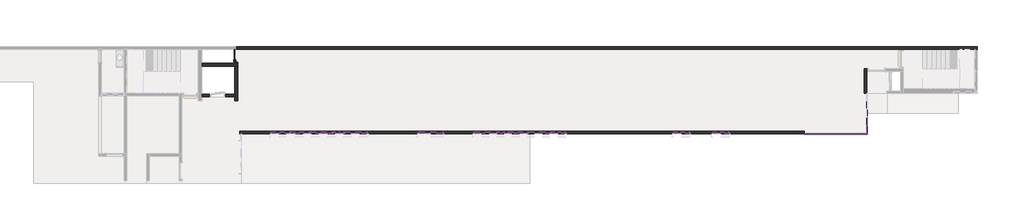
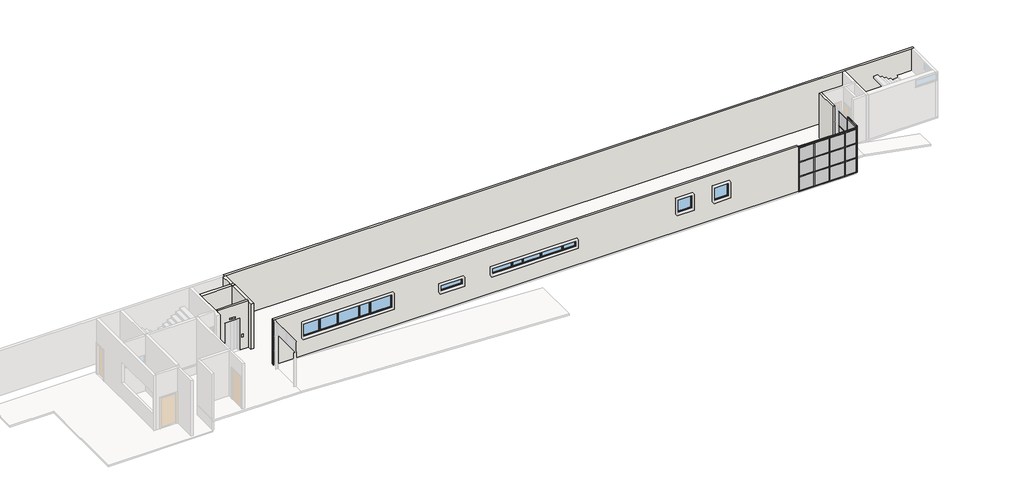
# One storey, part 2 of 3: 56 members, 23 plates, 13 windows, 7 walls, 1 door.
"""IFC4 building model written with IfcOpenShell, lengths in millimetres."""

from ifc_helpers import new_model, si_unit, frame, origin, place, context, project, spatial, polyline, outline, extrude, faceted_brep, transform, mapped, element, save
from components import door_80x210cm_6cad2534, rectangular_mullion_4x4_cm_offset_2cm_2258c4c8, rectangular_mullion_4x4_cm_offset_2cm_3eb18034, rectangular_mullion_4x4_cm_offset_2cm_f367b127, rectangular_mullion_4x4_cm_offset_2cm_0519d578, rectangular_mullion_4x4_cm_offset_2cm_ddc5f716, rectangular_mullion_4x4_cm_offset_2cm_dcd03643, rectangular_mullion_4x4_cm_offset_2cm_859eeaea, rectangular_mullion_4x4_cm_offset_2cm_f24be0eb, rectangular_mullion_4x4_cm_offset_2cm_c7dd14bb, rectangular_mullion_4x4_cm_offset_2cm_62779054, rectangular_mullion_4x4_cm_offset_2cm_9d20afd9, rectangular_mullion_4x4_cm_offset_2cm_7fa27b69, rectangular_mullion_4x4_cm_offset_2cm_a15747af, rectangular_mullion_4x4_cm_offset_2cm_83326fac, rectangular_mullion_4x4_cm_offset_2cm_a72ce177, rectangular_mullion_4x4_cm_offset_2cm_a55c69bb, system_panel_vidro_2cm_7b007d6b, system_panel_vidro_2cm_b9699863, system_panel_vidro_2cm_5412c861, system_panel_vidro_2cm_a1342aed, system_panel_vidro_2cm_e9956cb0, system_panel_vidro_2cm_1f93eb52, aluminum_exterior_window_2_wide_3886_0_70_x_0_50m_620618a0, aluminum_exterior_window_2_wide_3886_0_70_x_1_00m_ebdd4f97, aluminum_exterior_window_2_wide_3886_0_85_x_0_50m_92bb0107, aluminum_exterior_window_2_wide_3886_1_00_x_1_00m_4173611b, aluminum_exterior_window_2_wide_3886_1_15_x_1_00m_830be03d, aluminum_exterior_window_2_wide_3886_1_20_x_0_50m_2c522d7e, aluminum_exterior_window_2_wide_3886_1_20_x_1_00m_ff6d45cf, aluminum_exterior_window_2_wide_3886_1_40_x_0_50m_8d64cb47, aluminum_exterior_window_2_wide_3886_1_40_x_1_00m_dec34682, aluminum_exterior_window_2_wide_3886_1_50_x_0_50m_718bd5c1

model = new_model("IFC4")

# Units and contexts
model_context = context("Model", 3, world=origin())
ifc_project = project(units=[si_unit("LENGTHUNIT", "METRE", prefix="MILLI")], contexts=[model_context])

# Site, building, storey
site = spatial("IfcSite", under=ifc_project)
building = spatial("IfcBuilding", under=site)
storey = spatial("IfcBuildingStorey", under=building, Name="PLANTA BAIXA TÉRREO", Elevation=800.0)

# Door
placement = place(None, origin())
door_80x210cm_shape = door_80x210cm_6cad2534(model_context)
element("IfcDoor", 1, ObjectType="FamiliaBIM Porta de abrir Veneziana Metalica MCMV 2023 : 80x210cm", at=placement, inside=storey, context=model_context, shape_type="MappedRepresentation", body=[
    mapped(door_80x210cm_shape, transform((-2254.6326345, -3209.9622627, 750.0), x_axis=(0.0, 1.0, 0.0), y_axis=(-1.0, 0.0, 0.0), z_axis=(0.0, 0.0, 1.0))),
])

# Members
rectangular_mullion_4x4_cm_offset_2cm_shape = rectangular_mullion_4x4_cm_offset_2cm_2258c4c8(model_context)
element("IfcMember", 2, ObjectType="Rectangular Mullion : 4x4 cm - offset 2cm", at=placement, inside=storey, context=model_context, shape_type="MappedRepresentation", body=[
    mapped(rectangular_mullion_4x4_cm_offset_2cm_shape, transform((32235.3673655, -8041.1116245, 800.0), x_axis=(0.0, 0.0, -1.0), y_axis=(0.0, -1.0, 0.0), z_axis=(-1.0, 0.0, 0.0))),
])
element("IfcMember", 3, ObjectType="Rectangular Mullion : 4x4 cm - offset 2cm", at=placement, inside=storey, context=model_context, shape_type="MappedRepresentation", body=[
    mapped(rectangular_mullion_4x4_cm_offset_2cm_shape, transform((36035.3673655, -7041.1116242, 4000.0), x_axis=(0.0, 0.0, 1.0), y_axis=(1.0, 0.0, 0.0), z_axis=(0.0, 1.0, 0.0))),
])
element("IfcMember", 4, ObjectType="Rectangular Mullion : 4x4 cm - offset 2cm", at=placement, inside=storey, context=model_context, shape_type="MappedRepresentation", body=[
    mapped(rectangular_mullion_4x4_cm_offset_2cm_shape, transform((33235.3673658, -8041.1116245, 3900.0), x_axis=(0.0, 0.0, 1.0), y_axis=(0.0, -1.0, 0.0), z_axis=(1.0, 0.0, 0.0))),
])
rectangular_mullion_4x4_cm_offset_2cm_2_shape = rectangular_mullion_4x4_cm_offset_2cm_3eb18034(model_context)
element("IfcMember", 5, ObjectType="Rectangular Mullion : 4x4 cm - offset 2cm", at=placement, inside=storey, context=model_context, shape_type="MappedRepresentation", body=[
    mapped(rectangular_mullion_4x4_cm_offset_2cm_2_shape, transform((36035.3673655, -7041.1116242, 1800.0), x_axis=(0.0, 0.0, 1.0), y_axis=(1.0, 0.0, 0.0), z_axis=(0.0, 1.0, 0.0))),
])
element("IfcMember", 6, ObjectType="Rectangular Mullion : 4x4 cm - offset 2cm", at=placement, inside=storey, context=model_context, shape_type="MappedRepresentation", body=[
    mapped(rectangular_mullion_4x4_cm_offset_2cm_2_shape, transform((36035.3673655, -7041.1116242, 2800.0), x_axis=(0.0, 0.0, 1.0), y_axis=(1.0, 0.0, 0.0), z_axis=(0.0, 1.0, 0.0))),
])
element("IfcMember", 7, ObjectType="Rectangular Mullion : 4x4 cm - offset 2cm", at=placement, inside=storey, context=model_context, shape_type="MappedRepresentation", body=[
    mapped(rectangular_mullion_4x4_cm_offset_2cm_2_shape, transform((36035.3673655, -7041.1116242, 3800.0), x_axis=(0.0, 0.0, 1.0), y_axis=(1.0, 0.0, 0.0), z_axis=(0.0, 1.0, 0.0))),
])
element("IfcMember", 8, ObjectType="Rectangular Mullion : 4x4 cm - offset 2cm", at=placement, inside=storey, context=model_context, shape_type="MappedRepresentation", body=[
    mapped(rectangular_mullion_4x4_cm_offset_2cm_2_shape, transform((33235.3673658, -8041.1116245, 1800.0), x_axis=(0.0, 0.0, 1.0), y_axis=(0.0, -1.0, 0.0), z_axis=(1.0, 0.0, 0.0))),
])
element("IfcMember", 9, ObjectType="Rectangular Mullion : 4x4 cm - offset 2cm", at=placement, inside=storey, context=model_context, shape_type="MappedRepresentation", body=[
    mapped(rectangular_mullion_4x4_cm_offset_2cm_2_shape, transform((33235.3673658, -8041.1116245, 2800.0), x_axis=(0.0, 0.0, 1.0), y_axis=(0.0, -1.0, 0.0), z_axis=(1.0, 0.0, 0.0))),
])
element("IfcMember", 10, ObjectType="Rectangular Mullion : 4x4 cm - offset 2cm", at=placement, inside=storey, context=model_context, shape_type="MappedRepresentation", body=[
    mapped(rectangular_mullion_4x4_cm_offset_2cm_2_shape, transform((33235.3673658, -8041.1116245, 3800.0), x_axis=(0.0, 0.0, 1.0), y_axis=(0.0, -1.0, 0.0), z_axis=(1.0, 0.0, 0.0))),
])
rectangular_mullion_4x4_cm_offset_2cm_3_shape = rectangular_mullion_4x4_cm_offset_2cm_f367b127(model_context)
element("IfcMember", 11, ObjectType="Rectangular Mullion : 4x4 cm - offset 2cm", at=placement, inside=storey, context=model_context, shape_type="MappedRepresentation", body=[
    mapped(rectangular_mullion_4x4_cm_offset_2cm_3_shape, transform((36035.3673655, -7041.1116242, 840.0), x_axis=(0.0, 1.0, 0.0), y_axis=(1.0, 0.0, 0.0), z_axis=(0.0, 0.0, -1.0))),
])
element("IfcMember", 12, ObjectType="Rectangular Mullion : 4x4 cm - offset 2cm", at=placement, inside=storey, context=model_context, shape_type="MappedRepresentation", body=[
    mapped(rectangular_mullion_4x4_cm_offset_2cm_3_shape, transform((36035.3673655, -7041.1116242, 1840.0), x_axis=(0.0, 1.0, 0.0), y_axis=(1.0, 0.0, 0.0), z_axis=(0.0, 0.0, -1.0))),
])
element("IfcMember", 13, ObjectType="Rectangular Mullion : 4x4 cm - offset 2cm", at=placement, inside=storey, context=model_context, shape_type="MappedRepresentation", body=[
    mapped(rectangular_mullion_4x4_cm_offset_2cm_3_shape, transform((36035.3673655, -7041.1116242, 2840.0), x_axis=(0.0, 1.0, 0.0), y_axis=(1.0, 0.0, 0.0), z_axis=(0.0, 0.0, -1.0))),
])
element("IfcMember", 14, ObjectType="Rectangular Mullion : 4x4 cm - offset 2cm", at=placement, inside=storey, context=model_context, shape_type="MappedRepresentation", body=[
    mapped(rectangular_mullion_4x4_cm_offset_2cm_3_shape, transform((33235.3673658, -8041.1116245, 840.0), x_axis=(1.0, 0.0, 0.0), y_axis=(0.0, -1.0, 0.0), z_axis=(0.0, 0.0, -1.0))),
])
element("IfcMember", 15, ObjectType="Rectangular Mullion : 4x4 cm - offset 2cm", at=placement, inside=storey, context=model_context, shape_type="MappedRepresentation", body=[
    mapped(rectangular_mullion_4x4_cm_offset_2cm_3_shape, transform((34235.3673658, -8041.1116245, 840.0), x_axis=(1.0, 0.0, 0.0), y_axis=(0.0, -1.0, 0.0), z_axis=(0.0, 0.0, -1.0))),
])
element("IfcMember", 16, ObjectType="Rectangular Mullion : 4x4 cm - offset 2cm", at=placement, inside=storey, context=model_context, shape_type="MappedRepresentation", body=[
    mapped(rectangular_mullion_4x4_cm_offset_2cm_3_shape, transform((35235.3673658, -8041.1116245, 840.0), x_axis=(1.0, 0.0, 0.0), y_axis=(0.0, -1.0, 0.0), z_axis=(0.0, 0.0, -1.0))),
])
element("IfcMember", 17, ObjectType="Rectangular Mullion : 4x4 cm - offset 2cm", at=placement, inside=storey, context=model_context, shape_type="MappedRepresentation", body=[
    mapped(rectangular_mullion_4x4_cm_offset_2cm_3_shape, transform((33235.3673658, -8041.1116245, 1840.0), x_axis=(1.0, 0.0, 0.0), y_axis=(0.0, -1.0, 0.0), z_axis=(0.0, 0.0, -1.0))),
])
element("IfcMember", 18, ObjectType="Rectangular Mullion : 4x4 cm - offset 2cm", at=placement, inside=storey, context=model_context, shape_type="MappedRepresentation", body=[
    mapped(rectangular_mullion_4x4_cm_offset_2cm_3_shape, transform((34235.3673658, -8041.1116245, 1840.0), x_axis=(1.0, 0.0, 0.0), y_axis=(0.0, -1.0, 0.0), z_axis=(0.0, 0.0, -1.0))),
])
element("IfcMember", 19, ObjectType="Rectangular Mullion : 4x4 cm - offset 2cm", at=placement, inside=storey, context=model_context, shape_type="MappedRepresentation", body=[
    mapped(rectangular_mullion_4x4_cm_offset_2cm_3_shape, transform((35235.3673658, -8041.1116245, 1840.0), x_axis=(1.0, 0.0, 0.0), y_axis=(0.0, -1.0, 0.0), z_axis=(0.0, 0.0, -1.0))),
])
element("IfcMember", 20, ObjectType="Rectangular Mullion : 4x4 cm - offset 2cm", at=placement, inside=storey, context=model_context, shape_type="MappedRepresentation", body=[
    mapped(rectangular_mullion_4x4_cm_offset_2cm_3_shape, transform((33235.3673658, -8041.1116245, 2840.0), x_axis=(1.0, 0.0, 0.0), y_axis=(0.0, -1.0, 0.0), z_axis=(0.0, 0.0, -1.0))),
])
element("IfcMember", 21, ObjectType="Rectangular Mullion : 4x4 cm - offset 2cm", at=placement, inside=storey, context=model_context, shape_type="MappedRepresentation", body=[
    mapped(rectangular_mullion_4x4_cm_offset_2cm_3_shape, transform((34235.3673658, -8041.1116245, 2840.0), x_axis=(1.0, 0.0, 0.0), y_axis=(0.0, -1.0, 0.0), z_axis=(0.0, 0.0, -1.0))),
])
element("IfcMember", 22, ObjectType="Rectangular Mullion : 4x4 cm - offset 2cm", at=placement, inside=storey, context=model_context, shape_type="MappedRepresentation", body=[
    mapped(rectangular_mullion_4x4_cm_offset_2cm_3_shape, transform((35235.3673658, -8041.1116245, 2840.0), x_axis=(1.0, 0.0, 0.0), y_axis=(0.0, -1.0, 0.0), z_axis=(0.0, 0.0, -1.0))),
])
rectangular_mullion_4x4_cm_offset_2cm_4_shape = rectangular_mullion_4x4_cm_offset_2cm_0519d578(model_context)
element("IfcMember", 23, ObjectType="Rectangular Mullion : 4x4 cm - offset 2cm", at=placement, inside=storey, context=model_context, shape_type="MappedRepresentation", body=[
    mapped(rectangular_mullion_4x4_cm_offset_2cm_4_shape, transform((36035.3673655, -8041.1116245, 840.0), x_axis=(1.0, 0.0, 0.0), y_axis=(0.0, -1.0, 0.0), z_axis=(0.0, 0.0, -1.0))),
])
element("IfcMember", 24, ObjectType="Rectangular Mullion : 4x4 cm - offset 2cm", at=placement, inside=storey, context=model_context, shape_type="MappedRepresentation", body=[
    mapped(rectangular_mullion_4x4_cm_offset_2cm_4_shape, transform((36035.3673655, -8041.1116245, 1800.0), x_axis=(0.0, -1.0, 0.0), y_axis=(1.0, 0.0, 0.0), z_axis=(0.0, 0.0, 1.0))),
])
element("IfcMember", 25, ObjectType="Rectangular Mullion : 4x4 cm - offset 2cm", at=placement, inside=storey, context=model_context, shape_type="MappedRepresentation", body=[
    mapped(rectangular_mullion_4x4_cm_offset_2cm_4_shape, transform((32235.3673655, -8041.1116245, 1800.0), x_axis=(-1.0, 0.0, 0.0), y_axis=(0.0, -1.0, 0.0), z_axis=(0.0, 0.0, 1.0))),
])
rectangular_mullion_4x4_cm_offset_2cm_5_shape = rectangular_mullion_4x4_cm_offset_2cm_ddc5f716(model_context)
element("IfcMember", 26, ObjectType="Rectangular Mullion : 4x4 cm - offset 2cm", at=placement, inside=storey, context=model_context, shape_type="MappedRepresentation", body=[
    mapped(rectangular_mullion_4x4_cm_offset_2cm_5_shape, transform((36035.3673655, -7041.1116242, 800.0), x_axis=(0.0, 0.0, -1.0), y_axis=(1.0, 0.0, 0.0), z_axis=(0.0, -1.0, 0.0))),
])
element("IfcMember", 27, ObjectType="Rectangular Mullion : 4x4 cm - offset 2cm", at=placement, inside=storey, context=model_context, shape_type="MappedRepresentation", body=[
    mapped(rectangular_mullion_4x4_cm_offset_2cm_5_shape, transform((33235.3673658, -8041.1116245, 800.0), x_axis=(0.0, 0.0, -1.0), y_axis=(0.0, -1.0, 0.0), z_axis=(-1.0, 0.0, 0.0))),
])
element("IfcMember", 28, ObjectType="Rectangular Mullion : 4x4 cm - offset 2cm", at=placement, inside=storey, context=model_context, shape_type="MappedRepresentation", body=[
    mapped(rectangular_mullion_4x4_cm_offset_2cm_5_shape, transform((34235.3673658, -8041.1116245, 800.0), x_axis=(0.0, 0.0, -1.0), y_axis=(0.0, -1.0, 0.0), z_axis=(-1.0, 0.0, 0.0))),
])
rectangular_mullion_4x4_cm_offset_2cm_6_shape = rectangular_mullion_4x4_cm_offset_2cm_dcd03643(model_context)
element("IfcMember", 29, ObjectType="Rectangular Mullion : 4x4 cm - offset 2cm", at=placement, inside=storey, context=model_context, shape_type="MappedRepresentation", body=[
    mapped(rectangular_mullion_4x4_cm_offset_2cm_6_shape, transform((36035.3673655, -6041.1116242, 1800.0), x_axis=(0.0, 0.0, 1.0), y_axis=(1.0, 0.0, 0.0), z_axis=(0.0, 1.0, 0.0))),
])
element("IfcMember", 30, ObjectType="Rectangular Mullion : 4x4 cm - offset 2cm", at=placement, inside=storey, context=model_context, shape_type="MappedRepresentation", body=[
    mapped(rectangular_mullion_4x4_cm_offset_2cm_6_shape, transform((34235.3673658, -8041.1116245, 1800.0), x_axis=(0.0, 0.0, 1.0), y_axis=(0.0, -1.0, 0.0), z_axis=(1.0, 0.0, 0.0))),
])
element("IfcMember", 31, ObjectType="Rectangular Mullion : 4x4 cm - offset 2cm", at=placement, inside=storey, context=model_context, shape_type="MappedRepresentation", body=[
    mapped(rectangular_mullion_4x4_cm_offset_2cm_6_shape, transform((35235.3673658, -8041.1116245, 1800.0), x_axis=(0.0, 0.0, 1.0), y_axis=(0.0, -1.0, 0.0), z_axis=(1.0, 0.0, 0.0))),
])
element("IfcMember", 32, ObjectType="Rectangular Mullion : 4x4 cm - offset 2cm", at=placement, inside=storey, context=model_context, shape_type="MappedRepresentation", body=[
    mapped(rectangular_mullion_4x4_cm_offset_2cm_6_shape, transform((34235.3673658, -8041.1116245, 2800.0), x_axis=(0.0, 0.0, 1.0), y_axis=(0.0, -1.0, 0.0), z_axis=(1.0, 0.0, 0.0))),
])
element("IfcMember", 33, ObjectType="Rectangular Mullion : 4x4 cm - offset 2cm", at=placement, inside=storey, context=model_context, shape_type="MappedRepresentation", body=[
    mapped(rectangular_mullion_4x4_cm_offset_2cm_6_shape, transform((35235.3673658, -8041.1116245, 2800.0), x_axis=(0.0, 0.0, 1.0), y_axis=(0.0, -1.0, 0.0), z_axis=(1.0, 0.0, 0.0))),
])
element("IfcMember", 34, ObjectType="Rectangular Mullion : 4x4 cm - offset 2cm", at=placement, inside=storey, context=model_context, shape_type="MappedRepresentation", body=[
    mapped(rectangular_mullion_4x4_cm_offset_2cm_6_shape, transform((34235.3673658, -8041.1116245, 3800.0), x_axis=(0.0, 0.0, 1.0), y_axis=(0.0, -1.0, 0.0), z_axis=(1.0, 0.0, 0.0))),
])
element("IfcMember", 35, ObjectType="Rectangular Mullion : 4x4 cm - offset 2cm", at=placement, inside=storey, context=model_context, shape_type="MappedRepresentation", body=[
    mapped(rectangular_mullion_4x4_cm_offset_2cm_6_shape, transform((35235.3673658, -8041.1116245, 3800.0), x_axis=(0.0, 0.0, 1.0), y_axis=(0.0, -1.0, 0.0), z_axis=(1.0, 0.0, 0.0))),
])
element("IfcMember", 36, ObjectType="Rectangular Mullion : 4x4 cm - offset 2cm", at=placement, inside=storey, context=model_context, shape_type="MappedRepresentation", body=[
    mapped(rectangular_mullion_4x4_cm_offset_2cm_5_shape, transform((34235.3673658, -8041.1116245, 3900.0), x_axis=(0.0, 0.0, 1.0), y_axis=(0.0, -1.0, 0.0), z_axis=(1.0, 0.0, 0.0))),
])
rectangular_mullion_4x4_cm_offset_2cm_7_shape = rectangular_mullion_4x4_cm_offset_2cm_859eeaea(model_context)
element("IfcMember", 37, ObjectType="Rectangular Mullion : 4x4 cm - offset 2cm", at=placement, inside=storey, context=model_context, shape_type="MappedRepresentation", body=[
    mapped(rectangular_mullion_4x4_cm_offset_2cm_7_shape, transform((36035.3673655, -7041.1116242, 3840.0), x_axis=(0.0, 1.0, 0.0), y_axis=(1.0, 0.0, 0.0), z_axis=(0.0, 0.0, -1.0))),
])
rectangular_mullion_4x4_cm_offset_2cm_8_shape = rectangular_mullion_4x4_cm_offset_2cm_f24be0eb(model_context)
element("IfcMember", 38, ObjectType="Rectangular Mullion : 4x4 cm - offset 2cm", at=placement, inside=storey, context=model_context, shape_type="MappedRepresentation", body=[
    mapped(rectangular_mullion_4x4_cm_offset_2cm_8_shape, transform((36035.3673655, -8041.1116245, 3960.0), x_axis=(0.0, -1.0, 0.0), y_axis=(1.0, 0.0, 0.0), z_axis=(0.0, 0.0, 1.0))),
])
element("IfcMember", 39, ObjectType="Rectangular Mullion : 4x4 cm - offset 2cm", at=placement, inside=storey, context=model_context, shape_type="MappedRepresentation", body=[
    mapped(rectangular_mullion_4x4_cm_offset_2cm_5_shape, transform((36035.3673655, -8041.1116245, 1800.0), x_axis=(1.0, 0.0, 0.0), y_axis=(0.0, -1.0, 0.0), z_axis=(0.0, 0.0, -1.0))),
])
element("IfcMember", 40, ObjectType="Rectangular Mullion : 4x4 cm - offset 2cm", at=placement, inside=storey, context=model_context, shape_type="MappedRepresentation", body=[
    mapped(rectangular_mullion_4x4_cm_offset_2cm_5_shape, transform((36035.3673655, -8041.1116245, 2800.0), x_axis=(1.0, 0.0, 0.0), y_axis=(0.0, -1.0, 0.0), z_axis=(0.0, 0.0, -1.0))),
])
element("IfcMember", 41, ObjectType="Rectangular Mullion : 4x4 cm - offset 2cm", at=placement, inside=storey, context=model_context, shape_type="MappedRepresentation", body=[
    mapped(rectangular_mullion_4x4_cm_offset_2cm_5_shape, transform((36035.3673655, -8041.1116245, 2800.0), x_axis=(0.0, -1.0, 0.0), y_axis=(1.0, 0.0, 0.0), z_axis=(0.0, 0.0, 1.0))),
])
element("IfcMember", 42, ObjectType="Rectangular Mullion : 4x4 cm - offset 2cm", at=placement, inside=storey, context=model_context, shape_type="MappedRepresentation", body=[
    mapped(rectangular_mullion_4x4_cm_offset_2cm_5_shape, transform((36035.3673655, -8041.1116245, 3800.0), x_axis=(0.0, -1.0, 0.0), y_axis=(1.0, 0.0, 0.0), z_axis=(0.0, 0.0, 1.0))),
])
element("IfcMember", 43, ObjectType="Rectangular Mullion : 4x4 cm - offset 2cm", at=placement, inside=storey, context=model_context, shape_type="MappedRepresentation", body=[
    mapped(rectangular_mullion_4x4_cm_offset_2cm_5_shape, transform((32235.3673655, -8041.1116245, 2800.0), x_axis=(-1.0, 0.0, 0.0), y_axis=(0.0, -1.0, 0.0), z_axis=(0.0, 0.0, 1.0))),
])
element("IfcMember", 44, ObjectType="Rectangular Mullion : 4x4 cm - offset 2cm", at=placement, inside=storey, context=model_context, shape_type="MappedRepresentation", body=[
    mapped(rectangular_mullion_4x4_cm_offset_2cm_5_shape, transform((32235.3673655, -8041.1116245, 3800.0), x_axis=(-1.0, 0.0, 0.0), y_axis=(0.0, -1.0, 0.0), z_axis=(0.0, 0.0, 1.0))),
])
rectangular_mullion_4x4_cm_offset_2cm_9_shape = rectangular_mullion_4x4_cm_offset_2cm_c7dd14bb(model_context)
element("IfcMember", 45, ObjectType="Rectangular Mullion : 4x4 cm - offset 2cm", at=placement, inside=storey, context=model_context, shape_type="MappedRepresentation", body=[
    mapped(rectangular_mullion_4x4_cm_offset_2cm_9_shape, transform((34595.3673655, -8041.1116245, 3900.0), x_axis=(0.0, 0.0, 1.0), y_axis=(0.0, -1.0, 0.0), z_axis=(1.0, 0.0, 0.0))),
])
rectangular_mullion_4x4_cm_offset_2cm_10_shape = rectangular_mullion_4x4_cm_offset_2cm_62779054(model_context)
element("IfcMember", 46, ObjectType="Rectangular Mullion : 4x4 cm - offset 2cm", at=placement, inside=storey, context=model_context, shape_type="MappedRepresentation", body=[
    mapped(rectangular_mullion_4x4_cm_offset_2cm_10_shape, transform((35235.3673658, -8041.1116245, 3900.0), x_axis=(0.0, 0.0, 1.0), y_axis=(0.0, -1.0, 0.0), z_axis=(1.0, 0.0, 0.0))),
])
rectangular_mullion_4x4_cm_offset_2cm_11_shape = rectangular_mullion_4x4_cm_offset_2cm_9d20afd9(model_context)
element("IfcMember", 47, ObjectType="Rectangular Mullion : 4x4 cm - offset 2cm", at=placement, inside=storey, context=model_context, shape_type="MappedRepresentation", body=[
    mapped(rectangular_mullion_4x4_cm_offset_2cm_11_shape, transform((33235.3673658, -8041.1116245, 3840.0), x_axis=(1.0, 0.0, 0.0), y_axis=(0.0, -1.0, 0.0), z_axis=(0.0, 0.0, -1.0))),
])
element("IfcMember", 48, ObjectType="Rectangular Mullion : 4x4 cm - offset 2cm", at=placement, inside=storey, context=model_context, shape_type="MappedRepresentation", body=[
    mapped(rectangular_mullion_4x4_cm_offset_2cm_11_shape, transform((34235.3673658, -8041.1116245, 3840.0), x_axis=(1.0, 0.0, 0.0), y_axis=(0.0, -1.0, 0.0), z_axis=(0.0, 0.0, -1.0))),
])
element("IfcMember", 49, ObjectType="Rectangular Mullion : 4x4 cm - offset 2cm", at=placement, inside=storey, context=model_context, shape_type="MappedRepresentation", body=[
    mapped(rectangular_mullion_4x4_cm_offset_2cm_11_shape, transform((35235.3673658, -8041.1116245, 3840.0), x_axis=(1.0, 0.0, 0.0), y_axis=(0.0, -1.0, 0.0), z_axis=(0.0, 0.0, -1.0))),
])
rectangular_mullion_4x4_cm_offset_2cm_12_shape = rectangular_mullion_4x4_cm_offset_2cm_7fa27b69(model_context)
element("IfcMember", 50, ObjectType="Rectangular Mullion : 4x4 cm - offset 2cm", at=placement, inside=storey, context=model_context, shape_type="MappedRepresentation", body=[
    mapped(rectangular_mullion_4x4_cm_offset_2cm_12_shape, transform((32235.3673655, -8041.1116245, 3860.0), x_axis=(-1.0, 0.0, 0.0), y_axis=(0.0, -1.0, 0.0), z_axis=(0.0, 0.0, 1.0))),
])
element("IfcMember", 51, ObjectType="Rectangular Mullion : 4x4 cm - offset 2cm", at=placement, inside=storey, context=model_context, shape_type="MappedRepresentation", body=[
    mapped(rectangular_mullion_4x4_cm_offset_2cm_12_shape, transform((36035.3673655, -8041.1116245, 3800.0), x_axis=(1.0, 0.0, 0.0), y_axis=(0.0, -1.0, 0.0), z_axis=(0.0, 0.0, -1.0))),
])
rectangular_mullion_4x4_cm_offset_2cm_13_shape = rectangular_mullion_4x4_cm_offset_2cm_a15747af(model_context)
element("IfcMember", 52, ObjectType="Rectangular Mullion : 4x4 cm - offset 2cm", at=placement, inside=storey, context=model_context, shape_type="MappedRepresentation", body=[
    mapped(rectangular_mullion_4x4_cm_offset_2cm_13_shape, transform((36035.3673655, -8041.1116245, 3900.0), x_axis=(0.0, 0.0, 1.0), y_axis=(0.0, -1.0, 0.0), z_axis=(1.0, 0.0, 0.0))),
])
rectangular_mullion_4x4_cm_offset_2cm_14_shape = rectangular_mullion_4x4_cm_offset_2cm_83326fac(model_context)
element("IfcMember", 53, ObjectType="Rectangular Mullion : 4x4 cm - offset 2cm", at=placement, inside=storey, context=model_context, shape_type="MappedRepresentation", body=[
    mapped(rectangular_mullion_4x4_cm_offset_2cm_14_shape, transform((35995.3673655, -8041.1116245, 1800.0), x_axis=(0.0, 0.0, 1.0), y_axis=(0.0, -1.0, 0.0), z_axis=(1.0, 0.0, 0.0))),
])
element("IfcMember", 54, ObjectType="Rectangular Mullion : 4x4 cm - offset 2cm", at=placement, inside=storey, context=model_context, shape_type="MappedRepresentation", body=[
    mapped(rectangular_mullion_4x4_cm_offset_2cm_14_shape, transform((35995.3673655, -8041.1116245, 2800.0), x_axis=(0.0, 0.0, 1.0), y_axis=(0.0, -1.0, 0.0), z_axis=(1.0, 0.0, 0.0))),
])
element("IfcMember", 55, ObjectType="Rectangular Mullion : 4x4 cm - offset 2cm", at=placement, inside=storey, context=model_context, shape_type="MappedRepresentation", body=[
    mapped(rectangular_mullion_4x4_cm_offset_2cm_14_shape, transform((35995.3673655, -8041.1116245, 3800.0), x_axis=(0.0, 0.0, 1.0), y_axis=(0.0, -1.0, 0.0), z_axis=(1.0, 0.0, 0.0))),
])
rectangular_mullion_4x4_cm_offset_2cm_15_shape = rectangular_mullion_4x4_cm_offset_2cm_a72ce177(model_context)
element("IfcMember", 56, ObjectType="Rectangular Mullion : 4x4 cm - offset 2cm", at=placement, inside=storey, context=model_context, shape_type="MappedRepresentation", body=[
    mapped(rectangular_mullion_4x4_cm_offset_2cm_15_shape, transform((35235.3673658, -8041.1116245, 800.0), x_axis=(0.0, 0.0, -1.0), y_axis=(0.0, -1.0, 0.0), z_axis=(-1.0, 0.0, 0.0))),
])
rectangular_mullion_4x4_cm_offset_2cm_16_shape = rectangular_mullion_4x4_cm_offset_2cm_a55c69bb(model_context)
element("IfcMember", 57, ObjectType="Rectangular Mullion : 4x4 cm - offset 2cm", at=placement, inside=storey, context=model_context, shape_type="MappedRepresentation", body=[
    mapped(rectangular_mullion_4x4_cm_offset_2cm_16_shape, transform((36035.3673655, -8041.1116245, 800.0), x_axis=(0.0, 0.0, -1.0), y_axis=(1.0, 0.0, 0.0), z_axis=(0.0, -1.0, 0.0))),
])

# Plates
system_panel_vidro_2cm_shape = system_panel_vidro_2cm_7b007d6b(model_context)
element("IfcPlate", 58, ObjectType="System Panel : Vidro 2cm", at=placement, inside=storey, context=model_context, shape_type="MappedRepresentation", body=[
    mapped(system_panel_vidro_2cm_shape, transform((36035.3673655, -7521.1116244, 840.0), x_axis=(0.0, 1.0, 0.0), y_axis=(-1.0, 0.0, 0.0), z_axis=(0.0, 0.0, 1.0))),
])
element("IfcPlate", 59, ObjectType="System Panel : Vidro 2cm", at=placement, inside=storey, context=model_context, shape_type="MappedRepresentation", body=[
    mapped(system_panel_vidro_2cm_shape, transform((36035.3673655, -6521.1116242, 840.0), x_axis=(0.0, 1.0, 0.0), y_axis=(-1.0, 0.0, 0.0), z_axis=(0.0, 0.0, 1.0))),
])
element("IfcPlate", 60, ObjectType="System Panel : Vidro 2cm", at=placement, inside=storey, context=model_context, shape_type="MappedRepresentation", body=[
    mapped(system_panel_vidro_2cm_shape, transform((36035.3673655, -7521.1116244, 1840.0), x_axis=(0.0, 1.0, 0.0), y_axis=(-1.0, 0.0, 0.0), z_axis=(0.0, 0.0, 1.0))),
])
element("IfcPlate", 61, ObjectType="System Panel : Vidro 2cm", at=placement, inside=storey, context=model_context, shape_type="MappedRepresentation", body=[
    mapped(system_panel_vidro_2cm_shape, transform((36035.3673655, -6521.1116242, 1840.0), x_axis=(0.0, 1.0, 0.0), y_axis=(-1.0, 0.0, 0.0), z_axis=(0.0, 0.0, 1.0))),
])
element("IfcPlate", 62, ObjectType="System Panel : Vidro 2cm", at=placement, inside=storey, context=model_context, shape_type="MappedRepresentation", body=[
    mapped(system_panel_vidro_2cm_shape, transform((36035.3673655, -7521.1116244, 2840.0), x_axis=(0.0, 1.0, 0.0), y_axis=(-1.0, 0.0, 0.0), z_axis=(0.0, 0.0, 1.0))),
])
element("IfcPlate", 63, ObjectType="System Panel : Vidro 2cm", at=placement, inside=storey, context=model_context, shape_type="MappedRepresentation", body=[
    mapped(system_panel_vidro_2cm_shape, transform((36035.3673655, -6521.1116242, 2840.0), x_axis=(0.0, 1.0, 0.0), y_axis=(-1.0, 0.0, 0.0), z_axis=(0.0, 0.0, 1.0))),
])
element("IfcPlate", 64, ObjectType="System Panel : Vidro 2cm", at=placement, inside=storey, context=model_context, shape_type="MappedRepresentation", body=[
    mapped(system_panel_vidro_2cm_shape, transform((32755.3673657, -8041.1116245, 840.0), x_axis=(1.0, 0.0, 0.0), y_axis=(0.0, 1.0, 0.0), z_axis=(0.0, 0.0, 1.0))),
])
element("IfcPlate", 65, ObjectType="System Panel : Vidro 2cm", at=placement, inside=storey, context=model_context, shape_type="MappedRepresentation", body=[
    mapped(system_panel_vidro_2cm_shape, transform((33755.3673658, -8041.1116245, 840.0), x_axis=(1.0, 0.0, 0.0), y_axis=(0.0, 1.0, 0.0), z_axis=(0.0, 0.0, 1.0))),
])
element("IfcPlate", 66, ObjectType="System Panel : Vidro 2cm", at=placement, inside=storey, context=model_context, shape_type="MappedRepresentation", body=[
    mapped(system_panel_vidro_2cm_shape, transform((34755.3673658, -8041.1116245, 840.0), x_axis=(1.0, 0.0, 0.0), y_axis=(0.0, 1.0, 0.0), z_axis=(0.0, 0.0, 1.0))),
])
element("IfcPlate", 67, ObjectType="System Panel : Vidro 2cm", at=placement, inside=storey, context=model_context, shape_type="MappedRepresentation", body=[
    mapped(system_panel_vidro_2cm_shape, transform((32755.3673657, -8041.1116245, 1840.0), x_axis=(1.0, 0.0, 0.0), y_axis=(0.0, 1.0, 0.0), z_axis=(0.0, 0.0, 1.0))),
])
element("IfcPlate", 68, ObjectType="System Panel : Vidro 2cm", at=placement, inside=storey, context=model_context, shape_type="MappedRepresentation", body=[
    mapped(system_panel_vidro_2cm_shape, transform((33755.3673658, -8041.1116245, 1840.0), x_axis=(1.0, 0.0, 0.0), y_axis=(0.0, 1.0, 0.0), z_axis=(0.0, 0.0, 1.0))),
])
element("IfcPlate", 69, ObjectType="System Panel : Vidro 2cm", at=placement, inside=storey, context=model_context, shape_type="MappedRepresentation", body=[
    mapped(system_panel_vidro_2cm_shape, transform((34755.3673658, -8041.1116245, 1840.0), x_axis=(1.0, 0.0, 0.0), y_axis=(0.0, 1.0, 0.0), z_axis=(0.0, 0.0, 1.0))),
])
element("IfcPlate", 70, ObjectType="System Panel : Vidro 2cm", at=placement, inside=storey, context=model_context, shape_type="MappedRepresentation", body=[
    mapped(system_panel_vidro_2cm_shape, transform((32755.3673657, -8041.1116245, 2840.0), x_axis=(1.0, 0.0, 0.0), y_axis=(0.0, 1.0, 0.0), z_axis=(0.0, 0.0, 1.0))),
])
element("IfcPlate", 71, ObjectType="System Panel : Vidro 2cm", at=placement, inside=storey, context=model_context, shape_type="MappedRepresentation", body=[
    mapped(system_panel_vidro_2cm_shape, transform((33755.3673658, -8041.1116245, 2840.0), x_axis=(1.0, 0.0, 0.0), y_axis=(0.0, 1.0, 0.0), z_axis=(0.0, 0.0, 1.0))),
])
element("IfcPlate", 72, ObjectType="System Panel : Vidro 2cm", at=placement, inside=storey, context=model_context, shape_type="MappedRepresentation", body=[
    mapped(system_panel_vidro_2cm_shape, transform((34755.3673658, -8041.1116245, 2840.0), x_axis=(1.0, 0.0, 0.0), y_axis=(0.0, 1.0, 0.0), z_axis=(0.0, 0.0, 1.0))),
])
system_panel_vidro_2cm_2_shape = system_panel_vidro_2cm_b9699863(model_context)
element("IfcPlate", 73, ObjectType="System Panel : Vidro 2cm", at=placement, inside=storey, context=model_context, shape_type="MappedRepresentation", body=[
    mapped(system_panel_vidro_2cm_2_shape, transform((36035.3673655, -7521.1116244, 3840.0), x_axis=(0.0, 1.0, 0.0), y_axis=(-1.0, 0.0, 0.0), z_axis=(0.0, 0.0, 1.0))),
])
system_panel_vidro_2cm_3_shape = system_panel_vidro_2cm_5412c861(model_context)
element("IfcPlate", 74, ObjectType="System Panel : Vidro 2cm", at=placement, inside=storey, context=model_context, shape_type="MappedRepresentation", body=[
    mapped(system_panel_vidro_2cm_3_shape, transform((32755.3673657, -8041.1116245, 3840.0), x_axis=(1.0, 0.0, 0.0), y_axis=(0.0, 1.0, 0.0), z_axis=(0.0, 0.0, 1.0))),
])
element("IfcPlate", 75, ObjectType="System Panel : Vidro 2cm", at=placement, inside=storey, context=model_context, shape_type="MappedRepresentation", body=[
    mapped(system_panel_vidro_2cm_3_shape, transform((33755.3673658, -8041.1116245, 3840.0), x_axis=(1.0, 0.0, 0.0), y_axis=(0.0, 1.0, 0.0), z_axis=(0.0, 0.0, 1.0))),
])
system_panel_vidro_2cm_4_shape = system_panel_vidro_2cm_a1342aed(model_context)
element("IfcPlate", 76, ObjectType="System Panel : Vidro 2cm", at=placement, inside=storey, context=model_context, shape_type="MappedRepresentation", body=[
    mapped(system_panel_vidro_2cm_4_shape, transform((35635.3673657, -8041.1116245, 840.0), x_axis=(1.0, 0.0, 0.0), y_axis=(0.0, 1.0, 0.0), z_axis=(0.0, 0.0, 1.0))),
])
element("IfcPlate", 77, ObjectType="System Panel : Vidro 2cm", at=placement, inside=storey, context=model_context, shape_type="MappedRepresentation", body=[
    mapped(system_panel_vidro_2cm_4_shape, transform((35635.3673657, -8041.1116245, 1840.0), x_axis=(1.0, 0.0, 0.0), y_axis=(0.0, 1.0, 0.0), z_axis=(0.0, 0.0, 1.0))),
])
element("IfcPlate", 78, ObjectType="System Panel : Vidro 2cm", at=placement, inside=storey, context=model_context, shape_type="MappedRepresentation", body=[
    mapped(system_panel_vidro_2cm_4_shape, transform((35635.3673657, -8041.1116245, 2840.0), x_axis=(1.0, 0.0, 0.0), y_axis=(0.0, 1.0, 0.0), z_axis=(0.0, 0.0, 1.0))),
])
system_panel_vidro_2cm_5_shape = system_panel_vidro_2cm_e9956cb0(model_context)
element("IfcPlate", 79, ObjectType="System Panel : Vidro 2cm", at=placement, inside=storey, context=model_context, shape_type="MappedRepresentation", body=[
    mapped(system_panel_vidro_2cm_5_shape, transform((34755.3673658, -8041.1116245, 3840.0), x_axis=(1.0, 0.0, 0.0), y_axis=(0.0, 1.0, 0.0), z_axis=(0.0, 0.0, 1.0))),
])
system_panel_vidro_2cm_6_shape = system_panel_vidro_2cm_1f93eb52(model_context)
element("IfcPlate", 80, ObjectType="System Panel : Vidro 2cm", at=placement, inside=storey, context=model_context, shape_type="MappedRepresentation", body=[
    mapped(system_panel_vidro_2cm_6_shape, transform((35635.3673657, -8041.1116245, 3840.0), x_axis=(1.0, 0.0, 0.0), y_axis=(0.0, 1.0, 0.0), z_axis=(0.0, 0.0, 1.0))),
])

# Walls
element("IfcWall", 81, ObjectType="Genérica - 15cm", at=placement, inside=storey, context=model_context, shape_type="Brep", body=[
    faceted_brep([(-2029.6326345, -8041.1116245, 800.0), (32235.3673655, -8041.1116245, 800.0), (32235.3673655, -8041.1116245, 3900.0), (-954.6326345, -8041.1116245, 3900.0), (-2029.6326345, -8041.1116245, 3900.0), (5700.3673655, -8041.1116245, 2100.0), (-149.6326345, -8041.1116245, 2100.0), (-149.6326345, -8041.1116245, 3100.0), (5700.3673655, -8041.1116245, 3100.0), (10300.3673655, -8041.1116245, 2600.0), (10300.3673655, -8041.1116245, 2100.0), (8800.3673655, -8041.1116245, 2100.0), (8800.3673655, -8041.1116245, 2600.0), (12170.3673655, -8041.1116245, 2100.0), (12170.3673655, -8041.1116245, 2600.0), (17720.3673655, -8041.1116245, 2600.0), (17720.3673655, -8041.1116245, 2100.0), (25270.3673655, -8041.1116245, 3100.0), (25270.3673655, -8041.1116245, 2100.0), (24270.3673655, -8041.1116245, 2100.0), (24270.3673655, -8041.1116245, 3100.0), (27670.3673655, -8041.1116245, 3100.0), (27670.3673655, -8041.1116245, 2100.0), (26670.3673655, -8041.1116245, 2100.0), (26670.3673655, -8041.1116245, 3100.0), (32235.3673655, -7891.1116245, 800.0), (-2029.6326345, -7891.1116245, 800.0), (-2029.6326345, -7891.1116245, 3900.0), (32235.3673655, -7891.1116245, 3900.0), (5700.3673655, -7891.1116245, 3100.0), (-149.6326345, -7891.1116245, 3100.0), (-149.6326345, -7891.1116245, 2100.0), (5700.3673655, -7891.1116245, 2100.0), (10300.3673655, -7891.1116245, 2600.0), (8800.3673655, -7891.1116245, 2600.0), (8800.3673655, -7891.1116245, 2100.0), (10300.3673655, -7891.1116245, 2100.0), (12170.3673655, -7891.1116245, 2600.0), (12170.3673655, -7891.1116245, 2100.0), (17720.3673655, -7891.1116245, 2100.0), (17720.3673655, -7891.1116245, 2600.0), (25270.3673655, -7891.1116245, 3100.0), (24270.3673655, -7891.1116245, 3100.0), (24270.3673655, -7891.1116245, 2100.0), (25270.3673655, -7891.1116245, 2100.0), (27670.3673655, -7891.1116245, 3100.0), (26670.3673655, -7891.1116245, 3100.0), (26670.3673655, -7891.1116245, 2100.0), (27670.3673655, -7891.1116245, 2100.0)], [[[0, 1, 2, 3, 4], [5, 6, 7, 8], [9, 10, 11, 12], [13, 14, 15, 16], [17, 18, 19, 20], [21, 22, 23, 24]], [[25, 26, 27, 28], [29, 30, 31, 32], [33, 34, 35, 36], [37, 38, 39, 40], [41, 42, 43, 44], [45, 46, 47, 48]], [[1, 0, 26, 25]], [[2, 1, 25, 28]], [[0, 4, 27, 26]], [[28, 27, 4, 3, 2]], [[31, 6, 5, 32]], [[7, 6, 31, 30]], [[7, 30, 29, 8]], [[8, 29, 32, 5]], [[10, 9, 33, 36]], [[11, 10, 36, 35]], [[12, 11, 35, 34]], [[9, 12, 34, 33]], [[38, 13, 16, 39]], [[14, 13, 38, 37]], [[14, 37, 40, 15]], [[15, 40, 39, 16]], [[18, 17, 41, 44]], [[19, 18, 44, 43]], [[20, 19, 43, 42]], [[17, 20, 42, 41]], [[22, 21, 45, 48]], [[23, 22, 48, 47]], [[24, 23, 47, 46]], [[21, 24, 46, 45]]]),
])
element("IfcWall", 82, ObjectType="Genérica - 15cm", at=placement, inside=storey, context=model_context, shape_type="Brep", body=[
    faceted_brep([(-2254.6326345, -2891.1116245, 800.0), (-2154.6326345, -2891.1116245, 800.0), (38085.3673655, -2891.1116245, 800.0), (38235.3673655, -2891.1116245, 800.0), (42605.3673655, -2891.1116245, 800.0), (42755.3673655, -2891.1116245, 800.0), (42755.3673655, -2891.1116245, 3900.0), (42605.3673655, -2891.1116245, 3900.0), (38235.3673655, -2891.1116245, 3900.0), (38085.3673655, -2891.1116245, 3900.0), (37545.3673655, -2891.1116245, 3900.0), (36045.3673655, -2891.1116245, 3900.0), (35345.3673655, -2891.1116245, 3900.0), (-2154.6326345, -2891.1116245, 3900.0), (-2254.6326345, -2891.1116245, 3900.0), (-2254.6326345, -2741.1116245, 800.0), (-2254.6326345, -2741.1116245, 3900.0), (42755.3673655, -2741.1116245, 3900.0), (42755.3673655, -2741.1116245, 800.0)], [[[0, 1, 2, 3, 4, 5, 6, 7, 8, 9, 10, 11, 12, 13, 14]], [[15, 16, 17, 18]], [[5, 4, 3, 2, 1, 0, 15, 18]], [[0, 14, 16, 15]], [[6, 5, 18, 17]], [[14, 13, 12, 11, 10, 9, 8, 7, 6, 17, 16]]]),
])
element("IfcWall", 83, ObjectType="Genérica - 20cm", at=placement, inside=storey, context=model_context, shape_type="Brep", body=[
    faceted_brep([(-4354.6326345, -3941.1116245, 800.0), (-2354.6326345, -3941.1116245, 800.0), (-2154.6326345, -3941.1116245, 800.0), (-2154.6326345, -3941.1116245, 3900.0), (-2354.6326345, -3941.1116245, 3900.0), (-4354.6326345, -3941.1116245, 3900.0), (-4354.6326345, -3741.1116245, 800.0), (-4354.6326345, -3741.1116245, 3900.0), (-2354.6326345, -3741.1116245, 3900.0), (-2154.6326345, -3741.1116245, 3900.0), (-2154.6326345, -3741.1116245, 800.0), (-2354.6326345, -3741.1116245, 800.0)], [[[0, 1, 2, 3, 4, 5]], [[6, 7, 8, 9, 10, 11]], [[2, 1, 0, 6, 11, 10]], [[0, 5, 7, 6]], [[3, 2, 10, 9]], [[5, 4, 8, 7]], [[4, 3, 9, 8]]]),
])
element("IfcWall", 84, ObjectType="Genérica - 20cm", at=placement, inside=storey, context=model_context, shape_type="Brep", body=[
    faceted_brep([(-2354.6326345, -3941.1116245, 800.0), (-2354.6326345, -5641.1116245, 800.0), (-2354.6326345, -5791.1116245, 800.0), (-2354.6326345, -6041.1116245, 800.0), (-2354.6326345, -6041.1116245, 3900.0), (-2354.6326345, -5591.1116245, 3900.0), (-2354.6326345, -3941.1116245, 3900.0), (-2154.6326345, -3941.1116245, 800.0), (-2154.6326345, -3941.1116245, 3900.0), (-2154.6326345, -6041.1116245, 3900.0), (-2154.6326345, -6041.1116245, 800.0)], [[[0, 1, 2, 3, 4, 5, 6]], [[7, 8, 9, 10]], [[3, 2, 1, 0, 7, 10]], [[4, 3, 10, 9]], [[0, 6, 8, 7]], [[6, 5, 4, 9, 8]]]),
])
element("IfcWall", 85, ObjectType="Genérica - 20cm", at=placement, inside=storey, context=model_context, shape_type="Brep", body=[
    faceted_brep([(-2154.6326345, -2891.1116245, 800.0), (-2154.6326345, -2891.1116245, 3900.0), (-2154.6326345, -3741.1116245, 3900.0), (-2154.6326345, -3741.1116245, 800.0), (-2154.6326345, -3709.9622627, 800.0), (-2154.6326345, -3709.9622627, 2940.0), (-2154.6326345, -2909.9622627, 2940.0), (-2154.6326345, -2909.9622627, 800.0), (-2354.6326345, -2891.1116245, 3900.0), (-2354.6326345, -2891.1116245, 800.0), (-2354.6326345, -2909.9622627, 800.0), (-2354.6326345, -2909.9622627, 2940.0), (-2354.6326345, -3709.9622627, 2940.0), (-2354.6326345, -3709.9622627, 800.0), (-2354.6326345, -3741.1116245, 800.0), (-2354.6326345, -3741.1116245, 3900.0), (-2354.6326345, -3541.1116245, 3900.0), (-2254.6326345, -2891.1116245, 800.0), (-2254.6326345, -2891.1116245, 3900.0)], [[[0, 1, 2, 3, 4, 5, 6, 7]], [[8, 9, 10, 11, 12, 13, 14, 15, 16]], [[3, 14, 13, 4]], [[9, 17, 0, 7, 10]], [[1, 0, 17, 9, 8, 18]], [[3, 2, 15, 14]], [[15, 2, 1, 18, 8, 16]], [[6, 11, 10, 7]], [[11, 6, 5, 12]], [[12, 5, 4, 13]]]),
])
element("IfcWall", 86, ObjectType="Genérica - 15cm", at=placement, inside=storey, context=model_context, shape_type="Brep", body=[
    faceted_brep([(36035.3673655, -5591.1116245, 800.0), (36035.3673655, -4241.1116245, 800.0), (36035.3673655, -4091.1116245, 800.0), (36035.3673655, -4091.1116245, 3900.0), (36035.3673655, -4241.1116245, 3900.0), (36035.3673655, -5591.1116245, 3900.0), (35885.3673655, -5591.1116245, 800.0), (35885.3673655, -5591.1116245, 3900.0), (35885.3673655, -4091.1116245, 3900.0), (35885.3673655, -4091.1116245, 800.0)], [[[0, 1, 2, 3, 4, 5]], [[6, 7, 8, 9]], [[2, 1, 0, 6, 9]], [[0, 5, 7, 6]], [[3, 2, 9, 8]], [[5, 4, 3, 8, 7]]]),
])
element("IfcWall", 87, ObjectType="Genérica - 15cm", at=placement, inside=storey, context=model_context, shape_type="SweptSolid", body=[
    extrude(outline(polyline([(4000.0, -2354.6326345), (4000.0, -4354.6326345), (800.0, -4354.6326345), (800.0, -3889.6326345), (3000.0, -3889.6326345), (3000.0, -2889.6326345), (800.0, -2889.6326345), (800.0, -2354.6326345), (4000.0, -2354.6326345)])), frame((0.0, -5791.1116245, 0.0), z_axis=(0.0, 1.0, 0.0), x_axis=(0.0, 0.0, 1.0)), (0.0, 0.0, 1.0), 150.0),
])

# Windows
aluminum_exterior_window_2_wide_3886_0_70_x_0_50m_shape = aluminum_exterior_window_2_wide_3886_0_70_x_0_50m_620618a0(model_context)
element("IfcWindow", 88, ObjectType="Aluminum_Exterior_Window_-_2_Wide_3886 : 0,70 x 0,50m", at=placement, inside=storey, context=model_context, shape_type="MappedRepresentation", body=[
    mapped(aluminum_exterior_window_2_wide_3886_0_70_x_0_50m_shape, transform((14941.9673655, -7992.6691491, 1040.0), x_axis=(1.0, 0.0, 0.0), y_axis=(0.0, 1.0, 0.0), z_axis=(0.0, 0.0, 1.0))),
])
aluminum_exterior_window_2_wide_3886_0_70_x_1_00m_shape = aluminum_exterior_window_2_wide_3886_0_70_x_1_00m_ebdd4f97(model_context)
element("IfcWindow", 89, ObjectType="Aluminum_Exterior_Window_-_2_Wide_3886 : 0,70 x 1,00m", at=placement, inside=storey, context=model_context, shape_type="MappedRepresentation", body=[
    mapped(aluminum_exterior_window_2_wide_3886_0_70_x_1_00m_shape, transform((4971.9673655, -7992.6691491, 1084.0), x_axis=(1.0, 0.0, 0.0), y_axis=(0.0, 1.0, 0.0), z_axis=(0.0, 0.0, 1.0))),
])
aluminum_exterior_window_2_wide_3886_0_85_x_0_50m_shape = aluminum_exterior_window_2_wide_3886_0_85_x_0_50m_92bb0107(model_context)
element("IfcWindow", 90, ObjectType="Aluminum_Exterior_Window_-_2_Wide_3886 : 0,85 x 0,50m", at=placement, inside=storey, context=model_context, shape_type="MappedRepresentation", body=[
    mapped(aluminum_exterior_window_2_wide_3886_0_85_x_0_50m_shape, transform((18241.9673655, -7992.6691491, 1040.0), x_axis=(1.0, 0.0, 0.0), y_axis=(0.0, 1.0, 0.0), z_axis=(0.0, 0.0, 1.0))),
])
aluminum_exterior_window_2_wide_3886_1_00_x_1_00m_shape = aluminum_exterior_window_2_wide_3886_1_00_x_1_00m_4173611b(model_context)
element("IfcWindow", 91, ObjectType="Aluminum_Exterior_Window_-_2_Wide_3886 : 1,00 x 1,00m", at=placement, inside=storey, context=model_context, shape_type="MappedRepresentation", body=[
    mapped(aluminum_exterior_window_2_wide_3886_1_00_x_1_00m_shape, transform((25641.9673655, -7992.6691491, 1040.0), x_axis=(1.0, 0.0, 0.0), y_axis=(0.0, 1.0, 0.0), z_axis=(0.0, 0.0, 1.0))),
])
element("IfcWindow", 92, ObjectType="Aluminum_Exterior_Window_-_2_Wide_3886 : 1,00 x 1,00m", at=placement, inside=storey, context=model_context, shape_type="MappedRepresentation", body=[
    mapped(aluminum_exterior_window_2_wide_3886_1_00_x_1_00m_shape, transform((28041.9673655, -7992.6691491, 1040.0), x_axis=(1.0, 0.0, 0.0), y_axis=(0.0, 1.0, 0.0), z_axis=(0.0, 0.0, 1.0))),
])
aluminum_exterior_window_2_wide_3886_1_15_x_1_00m_shape = aluminum_exterior_window_2_wide_3886_1_15_x_1_00m_830be03d(model_context)
element("IfcWindow", 93, ObjectType="Aluminum_Exterior_Window_-_2_Wide_3886 : 1,15 x 1,00m", at=placement, inside=storey, context=model_context, shape_type="MappedRepresentation", body=[
    mapped(aluminum_exterior_window_2_wide_3886_1_15_x_1_00m_shape, transform((1221.9673655, -7992.6691491, 1084.0), x_axis=(1.0, 0.0, 0.0), y_axis=(0.0, 1.0, 0.0), z_axis=(0.0, 0.0, 1.0))),
])
aluminum_exterior_window_2_wide_3886_1_20_x_0_50m_shape = aluminum_exterior_window_2_wide_3886_1_20_x_0_50m_2c522d7e(model_context)
element("IfcWindow", 94, ObjectType="Aluminum_Exterior_Window_-_2_Wide_3886 : 1,20 x 0,50m", at=placement, inside=storey, context=model_context, shape_type="MappedRepresentation", body=[
    mapped(aluminum_exterior_window_2_wide_3886_1_20_x_0_50m_shape, transform((15641.9673655, -7992.6691491, 1040.0), x_axis=(1.0, 0.0, 0.0), y_axis=(0.0, 1.0, 0.0), z_axis=(0.0, 0.0, 1.0))),
])
aluminum_exterior_window_2_wide_3886_1_20_x_1_00m_shape = aluminum_exterior_window_2_wide_3886_1_20_x_1_00m_ff6d45cf(model_context)
element("IfcWindow", 95, ObjectType="Aluminum_Exterior_Window_-_2_Wide_3886 : 1,20 x 1,00m", at=placement, inside=storey, context=model_context, shape_type="MappedRepresentation", body=[
    mapped(aluminum_exterior_window_2_wide_3886_1_20_x_1_00m_shape, transform((2371.9673655, -7992.6691491, 1084.0), x_axis=(1.0, 0.0, 0.0), y_axis=(0.0, 1.0, 0.0), z_axis=(0.0, 0.0, 1.0))),
])
aluminum_exterior_window_2_wide_3886_1_40_x_0_50m_shape = aluminum_exterior_window_2_wide_3886_1_40_x_0_50m_8d64cb47(model_context)
element("IfcWindow", 96, ObjectType="Aluminum_Exterior_Window_-_2_Wide_3886 : 1,40 x 0,50m", at=placement, inside=storey, context=model_context, shape_type="MappedRepresentation", body=[
    mapped(aluminum_exterior_window_2_wide_3886_1_40_x_0_50m_shape, transform((13541.9673655, -7992.6691491, 1040.0), x_axis=(1.0, 0.0, 0.0), y_axis=(0.0, 1.0, 0.0), z_axis=(0.0, 0.0, 1.0))),
])
element("IfcWindow", 97, ObjectType="Aluminum_Exterior_Window_-_2_Wide_3886 : 1,40 x 0,50m", at=placement, inside=storey, context=model_context, shape_type="MappedRepresentation", body=[
    mapped(aluminum_exterior_window_2_wide_3886_1_40_x_0_50m_shape, transform((16841.9673655, -7992.6691491, 1040.0), x_axis=(1.0, 0.0, 0.0), y_axis=(0.0, 1.0, 0.0), z_axis=(0.0, 0.0, 1.0))),
])
aluminum_exterior_window_2_wide_3886_1_40_x_1_00m_shape = aluminum_exterior_window_2_wide_3886_1_40_x_1_00m_dec34682(model_context)
element("IfcWindow", 98, ObjectType="Aluminum_Exterior_Window_-_2_Wide_3886 : 1,40 x 1,00m", at=placement, inside=storey, context=model_context, shape_type="MappedRepresentation", body=[
    mapped(aluminum_exterior_window_2_wide_3886_1_40_x_1_00m_shape, transform((3571.9673655, -7992.6691491, 1040.0), x_axis=(1.0, 0.0, 0.0), y_axis=(0.0, 1.0, 0.0), z_axis=(0.0, 0.0, 1.0))),
])
element("IfcWindow", 99, ObjectType="Aluminum_Exterior_Window_-_2_Wide_3886 : 1,40 x 1,00m", at=placement, inside=storey, context=model_context, shape_type="MappedRepresentation", body=[
    mapped(aluminum_exterior_window_2_wide_3886_1_40_x_1_00m_shape, transform((5671.9673655, -7992.6691491, 1040.0), x_axis=(1.0, 0.0, 0.0), y_axis=(0.0, 1.0, 0.0), z_axis=(0.0, 0.0, 1.0))),
])
aluminum_exterior_window_2_wide_3886_1_50_x_0_50m_shape = aluminum_exterior_window_2_wide_3886_1_50_x_0_50m_718bd5c1(model_context)
element("IfcWindow", 100, ObjectType="Aluminum_Exterior_Window_-_2_Wide_3886 : 1,50 x 0,50m", at=placement, inside=storey, context=model_context, shape_type="MappedRepresentation", body=[
    mapped(aluminum_exterior_window_2_wide_3886_1_50_x_0_50m_shape, transform((10171.9673655, -7992.6691491, 1040.0), x_axis=(1.0, 0.0, 0.0), y_axis=(0.0, 1.0, 0.0), z_axis=(0.0, 0.0, 1.0))),
])

save(model, "model.ifc")
